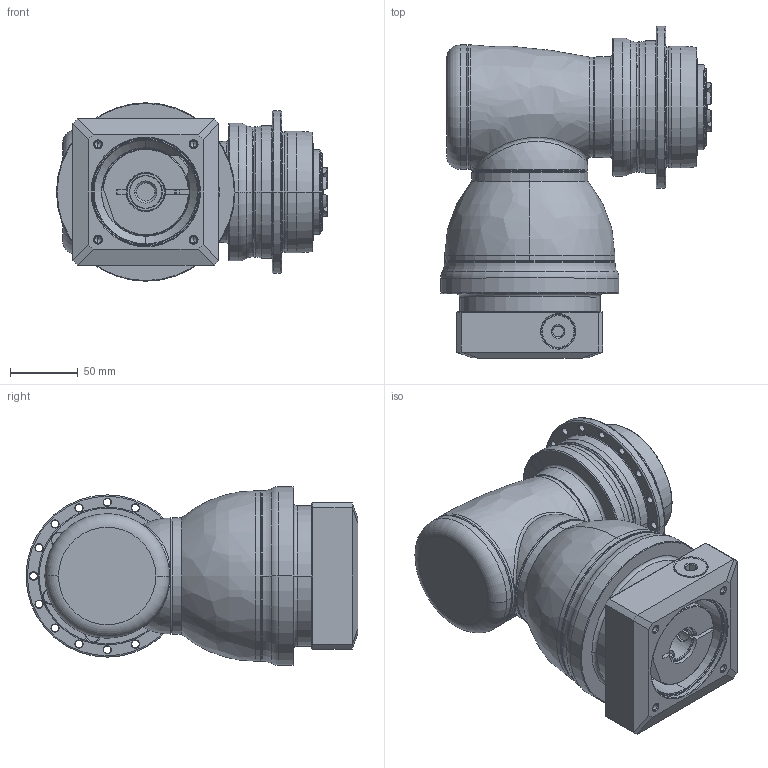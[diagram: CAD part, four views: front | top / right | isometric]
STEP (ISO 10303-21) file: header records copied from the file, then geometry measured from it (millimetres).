
FILE_DESCRIPTION((''),'2;1');
FILE_NAME('APCK090_2ST_SBG_24-P0409510201_ASM','2018-10-24T',('d01226'),(''),'PRO/ENGINEER BY PARAMETRIC TECHNOLOGY CORPORATION, 2015240','PRO/ENGINEER BY PARAMETRIC TECHNOLOGY CORPORATION, 2015240','');
FILE_SCHEMA(('CONFIG_CONTROL_DESIGN'));
Length unit declared in the file: millimetre
Products named in the file (13): P0278301003; P0359330103; P1211300001; P1802310011; P1018400002; P1365400001; P1007401001; P1318410101; P0409510201; P0503500010; P0912401201; 21711418017; APCK090_2ST_SBG_24-P0409510201_ASM
Assembly tree (12 placements, depth 2):
  APCK090_2ST_SBG_24-P0409510201_ASM
    P0278301003
    P0359330103
    P1211300001
    P1802310011
    P1018400002
    P1365400001
    P1007401001
    P1318410101
    P0409510201
    P0503500010
    P0912401201
    21711418017
Bounding box: 200.4 x 245.5 x 132 mm (x, y, z)
Volume: 2660708.8 mm3; surface area: 330613 mm2
Topology: 13 solids, 23 shells, 708 faces, 1660 edges, 1014 vertices
Faces by surface type: cylinder 245, cone 178, plane 148, torus 99, bspline 37, sphere 1
Entity records: 28142 total; most frequent: CARTESIAN_POINT 11479, DIRECTION 3708, ORIENTED_EDGE 3250, EDGE_CURVE 1646, AXIS2_PLACEMENT_3D 1599, VERTEX_POINT 1014, CIRCLE 893, EDGE_LOOP 806
